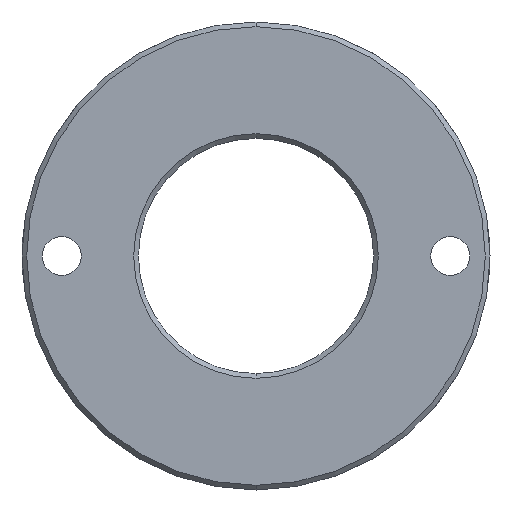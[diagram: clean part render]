
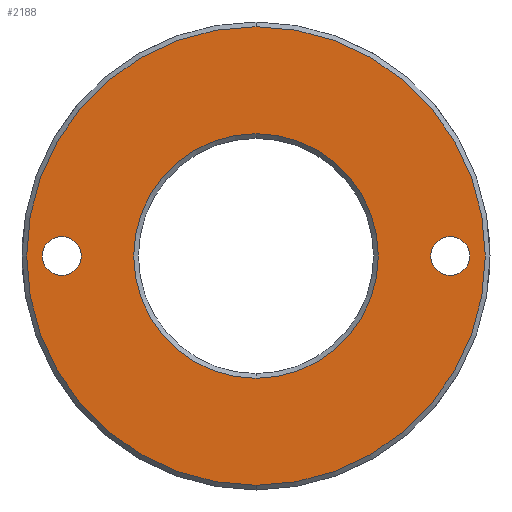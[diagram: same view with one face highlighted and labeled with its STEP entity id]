
A CAD part, front view. The second image highlights one B-rep face of the part: STEP entity #2188.
In plain terms, the highlighted planar face has unit normal (0, -1, 0).
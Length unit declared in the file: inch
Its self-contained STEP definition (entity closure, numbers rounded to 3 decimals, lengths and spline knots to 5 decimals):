
#64 = CARTESIAN_POINT ( 'NONE',  ( 0., 0., -1.955 ) ) ;
#77 = DIRECTION ( 'NONE',  ( 0., -1., 0. ) ) ;
#92 = EDGE_LOOP ( 'NONE', ( #5869, #608 ) ) ;
#200 = CARTESIAN_POINT ( 'NONE',  ( 0., 0., 0. ) ) ;
#269 = DIRECTION ( 'NONE',  ( 0., 1., 0. ) ) ;
#368 = CARTESIAN_POINT ( 'NONE',  ( 0., 0., 1.0425 ) ) ;
#414 = CARTESIAN_POINT ( 'NONE',  ( 0., 0., -1.0425 ) ) ;
#445 = ORIENTED_EDGE ( 'NONE', *, *, #759, .T. ) ;
#608 = ORIENTED_EDGE ( 'NONE', *, *, #5418, .T. ) ;
#759 = EDGE_CURVE ( 'NONE', #6313, #3577, #10305, .T. ) ;
#767 = DIRECTION ( 'NONE',  ( 0., 0., 1. ) ) ;
#842 = CARTESIAN_POINT ( 'NONE',  ( -1.65625, 0., 0. ) ) ;
#909 = ORIENTED_EDGE ( 'NONE', *, *, #11845, .T. ) ;
#917 = CARTESIAN_POINT ( 'NONE',  ( 1.65625, 0., 0. ) ) ;
#1266 = VERTEX_POINT ( 'NONE', #414 ) ;
#1596 = CIRCLE ( 'NONE', #8663, 0.166 ) ;
#1611 = EDGE_CURVE ( 'NONE', #3577, #6313, #10932, .T. ) ;
#1717 = FACE_BOUND ( 'NONE', #8632, .T. ) ;
#1720 = DIRECTION ( 'NONE',  ( 0., 1., 0. ) ) ;
#1758 = EDGE_CURVE ( 'NONE', #1266, #5125, #2292, .T. ) ;
#1802 = CARTESIAN_POINT ( 'NONE',  ( -1.65625, 0., 0. ) ) ;
#1805 = CARTESIAN_POINT ( 'NONE',  ( 1.65625, 0., 0.166 ) ) ;
#2188 = ADVANCED_FACE ( 'NONE', ( #11636, #1717, #3468, #5771 ), #10769, .F. ) ;
#2292 = CIRCLE ( 'NONE', #3178, 1.0425 ) ;
#2359 = AXIS2_PLACEMENT_3D ( 'NONE', #842, #2695, #9158 ) ;
#2567 = AXIS2_PLACEMENT_3D ( 'NONE', #200, #77, #4753 ) ;
#2586 = DIRECTION ( 'NONE',  ( 0., -1., 0. ) ) ;
#2625 = ORIENTED_EDGE ( 'NONE', *, *, #6931, .T. ) ;
#2675 = EDGE_LOOP ( 'NONE', ( #10327, #909 ) ) ;
#2695 = DIRECTION ( 'NONE',  ( 0., 1., 0. ) ) ;
#3102 = VERTEX_POINT ( 'NONE', #1805 ) ;
#3178 = AXIS2_PLACEMENT_3D ( 'NONE', #4947, #269, #11429 ) ;
#3342 = CIRCLE ( 'NONE', #7578, 0.166 ) ;
#3468 = FACE_BOUND ( 'NONE', #92, .T. ) ;
#3577 = VERTEX_POINT ( 'NONE', #8106 ) ;
#3757 = DIRECTION ( 'NONE',  ( 0., 1., 0. ) ) ;
#4344 = CARTESIAN_POINT ( 'NONE',  ( 0., 0., 0. ) ) ;
#4566 = DIRECTION ( 'NONE',  ( 0., 1., 0. ) ) ;
#4582 = CARTESIAN_POINT ( 'NONE',  ( 1.65625, 0., 0. ) ) ;
#4686 = AXIS2_PLACEMENT_3D ( 'NONE', #11699, #8786, #5974 ) ;
#4753 = DIRECTION ( 'NONE',  ( 0., 0., 1. ) ) ;
#4787 = EDGE_CURVE ( 'NONE', #9080, #3102, #1596, .T. ) ;
#4841 = CIRCLE ( 'NONE', #9702, 1.0425 ) ;
#4947 = CARTESIAN_POINT ( 'NONE',  ( 0., 0., 0. ) ) ;
#5125 = VERTEX_POINT ( 'NONE', #368 ) ;
#5218 = CARTESIAN_POINT ( 'NONE',  ( -1.65625, 0., -0.166 ) ) ;
#5418 = EDGE_CURVE ( 'NONE', #3102, #9080, #3342, .T. ) ;
#5771 = FACE_BOUND ( 'NONE', #2675, .T. ) ;
#5869 = ORIENTED_EDGE ( 'NONE', *, *, #4787, .T. ) ;
#5974 = DIRECTION ( 'NONE',  ( 1., 0., 0. ) ) ;
#6185 = VERTEX_POINT ( 'NONE', #12045 ) ;
#6313 = VERTEX_POINT ( 'NONE', #64 ) ;
#6529 = DIRECTION ( 'NONE',  ( 0., 1., 0. ) ) ;
#6592 = EDGE_LOOP ( 'NONE', ( #7174, #445 ) ) ;
#6641 = DIRECTION ( 'NONE',  ( 0., 0., 1. ) ) ;
#6915 = EDGE_CURVE ( 'NONE', #6185, #10227, #10918, .T. ) ;
#6931 = EDGE_CURVE ( 'NONE', #10227, #6185, #9137, .T. ) ;
#7174 = ORIENTED_EDGE ( 'NONE', *, *, #1611, .T. ) ;
#7444 = DIRECTION ( 'NONE',  ( 0., 0., 1. ) ) ;
#7578 = AXIS2_PLACEMENT_3D ( 'NONE', #917, #4566, #7444 ) ;
#8106 = CARTESIAN_POINT ( 'NONE',  ( 0., 0., 1.955 ) ) ;
#8632 = EDGE_LOOP ( 'NONE', ( #2625, #11989 ) ) ;
#8663 = AXIS2_PLACEMENT_3D ( 'NONE', #4582, #1720, #767 ) ;
#8786 = DIRECTION ( 'NONE',  ( 0., 1., 0. ) ) ;
#9080 = VERTEX_POINT ( 'NONE', #9882 ) ;
#9137 = CIRCLE ( 'NONE', #2359, 0.166 ) ;
#9158 = DIRECTION ( 'NONE',  ( 0., 0., -1. ) ) ;
#9702 = AXIS2_PLACEMENT_3D ( 'NONE', #11308, #6529, #6641 ) ;
#9882 = CARTESIAN_POINT ( 'NONE',  ( 1.65625, 0., -0.166 ) ) ;
#10063 = AXIS2_PLACEMENT_3D ( 'NONE', #4344, #2586, #10796 ) ;
#10227 = VERTEX_POINT ( 'NONE', #5218 ) ;
#10305 = CIRCLE ( 'NONE', #10063, 1.955 ) ;
#10327 = ORIENTED_EDGE ( 'NONE', *, *, #1758, .T. ) ;
#10769 = PLANE ( 'NONE',  #4686 ) ;
#10796 = DIRECTION ( 'NONE',  ( 0., 0., 1. ) ) ;
#10918 = CIRCLE ( 'NONE', #11292, 0.166 ) ;
#10932 = CIRCLE ( 'NONE', #2567, 1.955 ) ;
#11292 = AXIS2_PLACEMENT_3D ( 'NONE', #1802, #3757, #12107 ) ;
#11308 = CARTESIAN_POINT ( 'NONE',  ( 0., 0., 0. ) ) ;
#11429 = DIRECTION ( 'NONE',  ( 0., 0., 1. ) ) ;
#11636 = FACE_OUTER_BOUND ( 'NONE', #6592, .T. ) ;
#11699 = CARTESIAN_POINT ( 'NONE',  ( 0., 0., 0. ) ) ;
#11845 = EDGE_CURVE ( 'NONE', #5125, #1266, #4841, .T. ) ;
#11989 = ORIENTED_EDGE ( 'NONE', *, *, #6915, .T. ) ;
#12045 = CARTESIAN_POINT ( 'NONE',  ( -1.65625, 0., 0.166 ) ) ;
#12107 = DIRECTION ( 'NONE',  ( 0., 0., -1. ) ) ;
